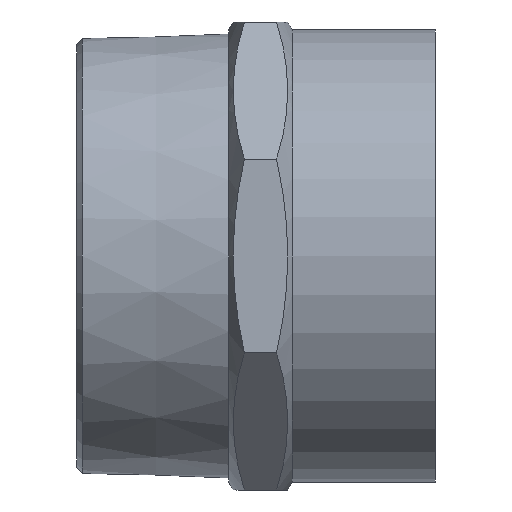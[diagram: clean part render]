
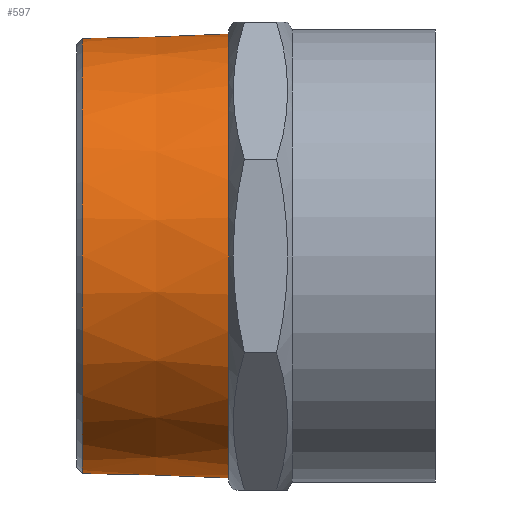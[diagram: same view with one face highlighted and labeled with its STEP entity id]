
A CAD part, front view. The second image highlights one B-rep face of the part: STEP entity #597.
In plain terms, the highlighted conical face has half-angle 1.78 degrees and reference radius 56.326 mm.
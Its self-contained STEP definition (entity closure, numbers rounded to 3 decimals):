
#566=CARTESIAN_POINT('',(1.499,55.767,0.));
#567=VERTEX_POINT('',#566);
#568=CARTESIAN_POINT('',(1.499,0.0,0.));
#569=DIRECTION('',(-1.0,0.0,0.0));
#570=DIRECTION('',(0.0,-1.0,0.0));
#571=AXIS2_PLACEMENT_3D('',#568,#569,#570);
#572=CIRCLE('',#571,55.767);
#573=EDGE_CURVE('',#567,#567,#572,.T.);
#578=CARTESIAN_POINT('',(19.5,0.,0.0));
#579=DIRECTION('',(1.0,0.,0.0));
#580=DIRECTION('',(0.0,1.0,0.0));
#581=AXIS2_PLACEMENT_3D('',#578,#579,#580);
#582=CONICAL_SURFACE('',#581,56.326,1.78);
#583=CARTESIAN_POINT('',(39.0,56.932,0.0));
#584=VERTEX_POINT('',#583);
#585=CARTESIAN_POINT('',(39.,0.,0.0));
#586=DIRECTION('',(1.0,0.0,0.0));
#587=DIRECTION('',(0.0,1.0,0.0));
#588=AXIS2_PLACEMENT_3D('',#585,#586,#587);
#589=CIRCLE('',#588,56.932);
#590=EDGE_CURVE('',#584,#584,#589,.T.);
#591=ORIENTED_EDGE('',*,*,#590,.F.);
#592=EDGE_LOOP('',(#591));
#593=FACE_OUTER_BOUND('',#592,.T.);
#594=ORIENTED_EDGE('',*,*,#573,.F.);
#595=EDGE_LOOP('',(#594));
#596=FACE_BOUND('',#595,.T.);
#597=ADVANCED_FACE('',(#593,#596),#582,.T.);
